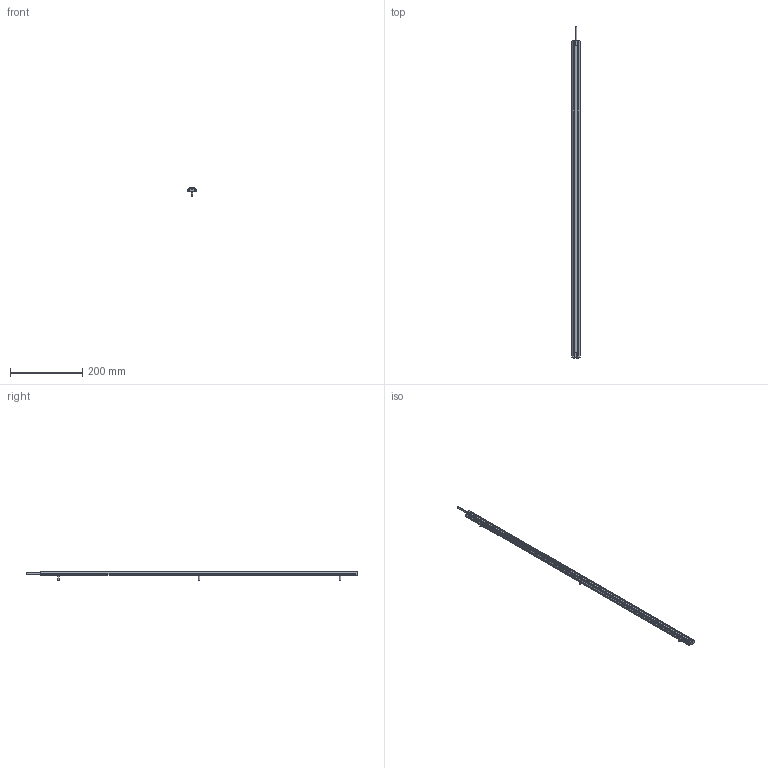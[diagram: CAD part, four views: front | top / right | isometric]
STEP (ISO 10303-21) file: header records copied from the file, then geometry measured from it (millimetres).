
FILE_DESCRIPTION (( 'STEP AP214' ), '1' );
FILE_NAME ('ILGA-B-K1-0880mm.STEP', '2026-04-24T22:50:01', ( '' ), ( '' ), 'SwSTEP 2.0', 'SolidWorks 2025', '' );
FILE_SCHEMA (( 'AUTOMOTIVE_DESIGN' ));
Length unit declared in the file: millimetre
Products named in the file (1): ILGA-B-K1-0880mm
Bounding box: 22.4 x 920 x 25.7 mm (x, y, z)
Volume: 68048.3 mm3; surface area: 120580.9 mm2
Topology: 12 solids, 12 shells, 715 faces, 1840 edges, 1126 vertices
Faces by surface type: plane 311, cylinder 264, cone 58, torus 42, bspline 24, sphere 16
Entity records: 29893 total; most frequent: CARTESIAN_POINT 4582, DIRECTION 3776, ORIENTED_EDGE 3592, EDGE_CURVE 1796, AXIS2_PLACEMENT_3D 1408, VERTEX_POINT 1126, LINE 960, VECTOR 960
